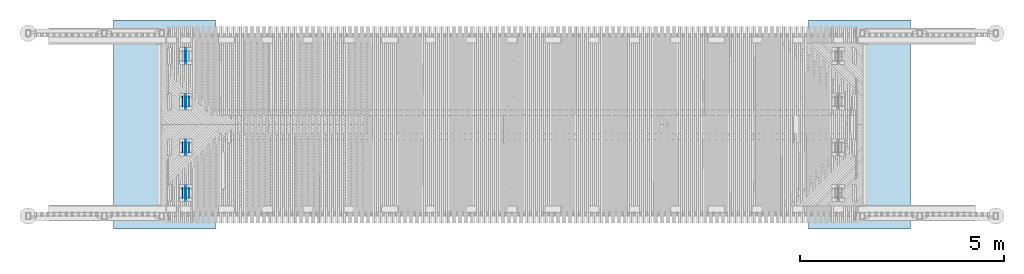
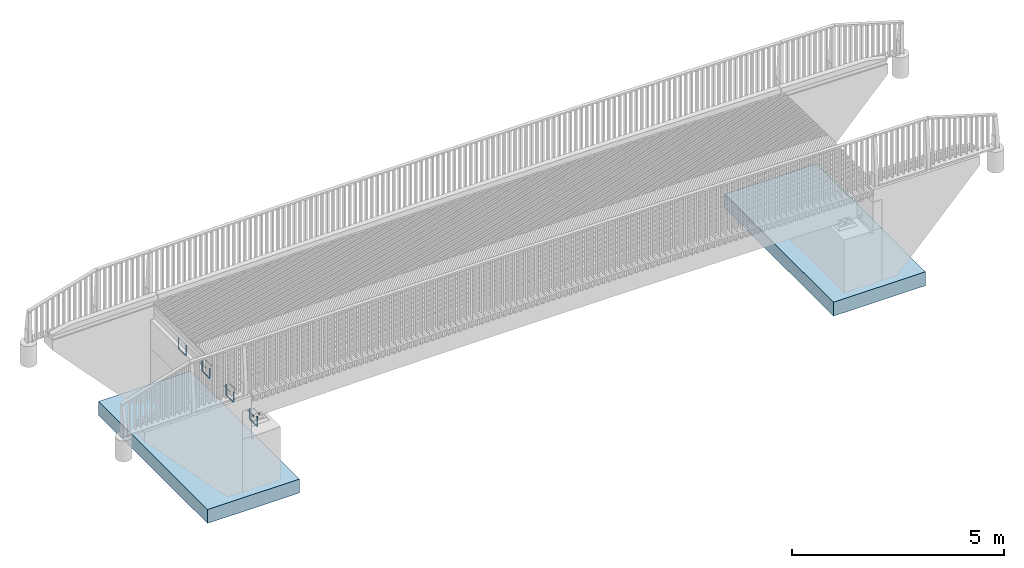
# One storey, part 1 of 47: 8 reinforcing bars, 3 mechanical fasteners, 2 slabs.
"""IFC2X3 building model written with IfcOpenShell, lengths in millimetres."""

from ifc_helpers import new_model, si_unit, frame, origin_with_axes, place, context, subcontext, project, spatial, faceted_brep, source, transform, mapped, material, type_object, element, save


model = new_model("IFC2X3")

# Units and contexts
model_context = context("Model", 3, precision=1e-05, world=origin_with_axes())
body_context = subcontext(model_context, "Body", "Model", "MODEL_VIEW")
ifc_project = project(units=[si_unit("LENGTHUNIT", "METRE", prefix="MILLI"), si_unit("AREAUNIT", "SQUARE_METRE"), si_unit("VOLUMEUNIT", "CUBIC_METRE"), si_unit("MASSUNIT", "GRAM", prefix="KILO"), si_unit("TIMEUNIT", "SECOND"), si_unit("PLANEANGLEUNIT", "RADIAN"), si_unit("SOLIDANGLEUNIT", "STERADIAN"), si_unit("THERMODYNAMICTEMPERATUREUNIT", "DEGREE_CELSIUS"), si_unit("LUMINOUSINTENSITYUNIT", "LUMEN")], contexts=[model_context])

# Site, building, storey
site_placement = place(None, origin_with_axes())
site = spatial("IfcSite", under=ifc_project, at=site_placement, Name="Undefined", CompositionType="ELEMENT")
building_placement = place(site_placement, origin_with_axes())
building = spatial("IfcBuilding", under=site, at=building_placement, Name="Undefined", CompositionType="ELEMENT")
storey_placement = place(building_placement, origin_with_axes())
storey = spatial("IfcBuildingStorey", under=building, at=storey_placement, Name="Undefined", CompositionType="ELEMENT", Elevation=0.0)

# Slabs
ifc_material_1 = material(Name="CONCRETE/Concrete_Undefined")
slab_type = type_object("IfcSlabType", Name="400*2500", PredefinedType="NOTDEFINED")
for number, where, z_axis, x_axis in (
    (1, (17765.0, 64930.0, 200.0), (-1.0, 0.0, 0.0), (0.0, -1.0, 0.0)),
    (2, (-1765.0, 64930.0, 200.0), (1.0, 0.0, 0.0), (0.0, -1.0, 0.0)),
):
    element("IfcSlab", number, at=place(storey_placement, frame(where, z_axis=z_axis, x_axis=x_axis)), inside=storey, type_object=slab_type, material=ifc_material_1, Name="PERUSLAATTA", ObjectType="400*2500", PredefinedType="FLOOR", context=body_context, shape_type="Brep", body=[
        faceted_brep([(0.0, -200.0, 0.0), (0.0, -200.0, 2500.0), (0.0, 200.0, 2500.0), (0.0, 200.0, 0.0), (5130.0, -200.0, 2500.0), (5130.0, 200.0, 2500.0), (5130.0, -200.0, 0.0), (5130.0, 200.0, 0.0)], [[[0, 1, 2, 3]], [[1, 4, 5, 2]], [[4, 6, 7, 5]], [[6, 0, 3, 7]], [[5, 7, 3, 2]], [[6, 4, 1, 0]]]),
    ])

# Reinforcing bars
ifc_material_2 = material(Name="A500HW")
shared_shape_1 = source(origin_with_axes(), body_context, "Body", "Brep", [
    faceted_brep([(9.95929214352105, -5.74999999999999, -1.31778448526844e-16), (9.95929214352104, 5.75000000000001, -1.31778448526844e-16), (-4.46864767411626e-15, 11.5, 5.31556664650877e-32), (-9.95929214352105, 5.75, 1.31778448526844e-16), (-9.95929214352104, -5.75, 1.31778448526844e-16), (0.0, -11.5, 0.0), (-9.95929214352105, -5.75, -268.5), (-3.5527136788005e-15, -11.5, -268.5), (-9.95929214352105, 5.75, -268.5), (-8.02136135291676e-15, 11.5, -268.5), (9.95929214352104, 5.75000000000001, -268.5), (9.95929214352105, -5.74999999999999, -268.5), (-4.40480021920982, -5.75, -289.229646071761), (4.22019978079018, -11.5, -284.25), (-4.40480021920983, 5.75, -289.229646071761), (4.22019978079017, 11.5, -284.25), (12.8451997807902, 5.75000000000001, -279.27035392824), (12.8451997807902, -5.74999999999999, -279.27035392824), (10.7703539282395, -5.75, -304.40480021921), (15.75, -11.5, -295.77980021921), (10.7703539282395, 5.75, -304.40480021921), (15.75, 11.5, -295.77980021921), (20.7296460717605, 5.75000000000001, -287.15480021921), (20.7296460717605, -5.74999999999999, -287.15480021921), (31.5, -5.75, -309.959292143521), (31.5, -11.5, -300.0), (31.5, 5.75, -309.959292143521), (31.5, 11.5, -300.0), (31.5, 5.75000000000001, -290.040707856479), (31.5, -5.74999999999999, -290.040707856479), (323.5, -5.75, -309.959292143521), (323.5, -11.5, -300.0), (323.5, 5.75, -309.959292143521), (323.5, 11.5, -300.0), (323.5, 5.75000000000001, -290.040707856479), (323.5, -5.74999999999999, -290.040707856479), (344.229646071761, -5.75, -304.40480021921), (339.25, -11.5, -295.77980021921), (344.229646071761, 5.75, -304.40480021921), (339.25, 11.5, -295.77980021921), (334.270353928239, 5.75000000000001, -287.15480021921), (334.270353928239, -5.74999999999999, -287.15480021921), (359.40480021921, -5.75, -289.229646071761), (350.77980021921, -11.5, -284.25), (359.40480021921, 5.75, -289.229646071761), (350.77980021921, 11.5, -284.25), (342.15480021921, 5.75000000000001, -279.27035392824), (342.15480021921, -5.74999999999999, -279.27035392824), (364.959292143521, -5.75, -268.5), (355.0, -11.5, -268.5), (364.959292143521, 5.75, -268.5), (355.0, 11.5, -268.5), (345.040707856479, 5.75000000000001, -268.5), (345.040707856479, -5.74999999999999, -268.5), (364.959292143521, -5.75, 0.0), (355.0, -11.5, 0.0), (364.959292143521, 5.75, 0.0), (355.0, 11.5, 0.0), (345.040707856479, 5.75000000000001, 0.0), (345.040707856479, -5.74999999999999, 0.0)], [[[0, 1, 2, 3, 4, 5]], [[5, 4, 6, 7]], [[4, 3, 8, 6]], [[3, 2, 9, 8]], [[2, 1, 10, 9]], [[1, 0, 11, 10]], [[0, 5, 7, 11]], [[7, 6, 12, 13]], [[6, 8, 14, 12]], [[8, 9, 15, 14]], [[9, 10, 16, 15]], [[10, 11, 17, 16]], [[11, 7, 13, 17]], [[13, 12, 18, 19]], [[12, 14, 20, 18]], [[14, 15, 21, 20]], [[15, 16, 22, 21]], [[16, 17, 23, 22]], [[17, 13, 19, 23]], [[19, 18, 24, 25]], [[18, 20, 26, 24]], [[20, 21, 27, 26]], [[21, 22, 28, 27]], [[22, 23, 29, 28]], [[23, 19, 25, 29]], [[25, 24, 30, 31]], [[24, 26, 32, 30]], [[26, 27, 33, 32]], [[27, 28, 34, 33]], [[28, 29, 35, 34]], [[29, 25, 31, 35]], [[31, 30, 36, 37]], [[30, 32, 38, 36]], [[32, 33, 39, 38]], [[33, 34, 40, 39]], [[34, 35, 41, 40]], [[35, 31, 37, 41]], [[37, 36, 42, 43]], [[36, 38, 44, 42]], [[38, 39, 45, 44]], [[39, 40, 46, 45]], [[40, 41, 47, 46]], [[41, 37, 43, 47]], [[43, 42, 48, 49]], [[42, 44, 50, 48]], [[44, 45, 51, 50]], [[45, 46, 52, 51]], [[46, 47, 53, 52]], [[47, 43, 49, 53]], [[49, 48, 54, 55]], [[48, 50, 56, 54]], [[50, 51, 57, 56]], [[51, 52, 58, 57]], [[52, 53, 59, 58]], [[53, 49, 55, 59]], [[55, 54, 56, 57, 58, 59]]]),
])
for number, where, z_axis, x_axis, name in (
    (3, (0.0, 63102.5000000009, 1637.32999999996), (0.0, 0.0, 1.0), (0.0, -1.0, 0.0), "REBAR"),
    (4, (0.0, 64222.5000000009, 1615.32999999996), (0.0, 0.0, 1.0), (0.0, -1.0, 0.0), "REBAR"),
    (5, (0.0, 61627.5, 1637.32999999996), (0.0, 0.0, 1.0), (0.0, 1.0, 0.0), "REBAR"),
    (6, (0.0, 60507.5, 1615.32999999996), (0.0, 0.0, 1.0), (0.0, 1.0, 0.0), "REBAR"),
    (7, (0.0, 60507.5, 1615.32999999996), (0.0, 0.0, 1.0), (0.0, 1.0, 0.0), "REBAR"),
    (8, (0.0, 61627.5, 1637.32999999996), (0.0, 0.0, 1.0), (0.0, 1.0, 0.0), "REBAR"),
    (9, (0.0, 64222.5000000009, 1615.32999999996), (0.0, 0.0, 1.0), (0.0, -1.0, 0.0), "REBAR"),
    (10, (0.0, 63102.5000000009, 1637.32999999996), (0.0, 0.0, 1.0), (0.0, -1.0, 0.0), "REBAR"),
):
    element("IfcReinforcingBar", number, at=place(storey_placement, frame(where, z_axis=z_axis, x_axis=x_axis)), inside=storey, material=ifc_material_2, Name=name, BarRole="NOTDEFINED", CrossSectionArea=0.0, NominalDiameter=23.0, context=body_context, shape_type="MappedRepresentation", body=[
        mapped(shared_shape_1, transform((0.0, 0.0, 420.0))),
    ])

# Mechanical fasteners
ifc_material_3 = material(Name="Undefined")
mechanical_fastener_type = type_object("IfcMechanicalFastenerType", Name="Bolt assembly")
shared_shape_2 = source(origin_with_axes(), body_context, "Body", "Brep", [
    faceted_brep([(17.3205080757, -238.7, 0.0), (8.66025403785, -238.7, 15.0000000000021), (-8.66025403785, -238.7, 15.0000000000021), (-17.3205080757, -238.7, 0.0), (-8.66025403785, -238.7, -15.0000000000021), (8.66025403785, -238.7, -15.0000000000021), (8.66025403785, -225.5, -15.0000000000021), (-8.66025403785, -225.5, -15.0000000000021), (-17.3205080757, -225.5, 0.0), (-8.66025403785, -225.5, 15.0000000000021), (8.66025403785, -225.5, 15.0000000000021), (17.3205080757, -225.5, 0.0), (10.0, -225.5, 0.0), (8.66025403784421, -225.5, 5.0000000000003), (4.9999999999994, -225.5, 8.66025403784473), (-1.03633598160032e-12, -225.5, 10.0), (-5.00000000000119, -225.5, 8.6602540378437), (-8.66025403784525, -225.5, 4.99999999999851), (-10.0, -225.5, -2.07267196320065e-12), (-8.66025403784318, -225.5, -5.00000000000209), (-4.99999999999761, -225.5, -8.66025403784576), (3.09790571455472e-12, -225.5, -10.0), (5.00000000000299, -225.5, -8.66025403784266), (8.66025403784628, -225.5, -4.99999999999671), (8.66025403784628, 44.5, -4.99999999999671), (5.00000000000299, 44.5, -8.66025403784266), (3.09790571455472e-12, 44.5, -10.0), (-4.99999999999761, 44.5, -8.66025403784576), (-8.66025403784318, 44.5, -5.00000000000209), (-10.0, 44.5, -2.07267196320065e-12), (-8.66025403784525, 44.5, 4.99999999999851), (-5.00000000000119, 44.5, 8.6602540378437), (-1.03633598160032e-12, 44.5, 10.0), (4.9999999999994, 44.5, 8.66025403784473), (8.66025403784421, 44.5, 5.0000000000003), (10.0, 44.5, 0.0), (18.5, -225.5, 0.0), (16.0214699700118, -225.5, 9.25000000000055), (9.2499999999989, -225.5, 16.0214699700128), (-1.9172215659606e-12, -225.5, 18.5), (-9.25000000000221, -225.5, 16.0214699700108), (-16.0214699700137, -225.5, 9.24999999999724), (-18.5, -225.5, -3.83444313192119e-12), (-16.0214699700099, -225.5, -9.25000000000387), (-9.24999999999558, -225.5, -16.0214699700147), (5.73112557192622e-12, -225.5, -18.5), (9.25000000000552, -225.5, -16.0214699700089), (16.0214699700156, -225.5, -9.24999999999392), (16.0214699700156, -222.5, -9.24999999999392), (9.25000000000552, -222.5, -16.0214699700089), (5.73112557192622e-12, -222.5, -18.5), (-9.24999999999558, -222.5, -16.0214699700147), (-16.0214699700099, -222.5, -9.25000000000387), (-18.5, -222.5, -3.83444313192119e-12), (-16.0214699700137, -222.5, 9.24999999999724), (-9.25000000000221, -222.5, 16.0214699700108), (-1.9172215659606e-12, -222.5, 18.5), (9.2499999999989, -222.5, 16.0214699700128), (16.0214699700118, -222.5, 9.25000000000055), (18.5, -222.5, 0.0), (18.5, 12.5, 0.0), (16.0214699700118, 12.5, 9.25000000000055), (9.2499999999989, 12.5, 16.0214699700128), (-1.9172215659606e-12, 12.5, 18.5), (-9.25000000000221, 12.5, 16.0214699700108), (-16.0214699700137, 12.5, 9.24999999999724), (-18.5, 12.5, -3.83444313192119e-12), (-16.0214699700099, 12.5, -9.25000000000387), (-9.24999999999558, 12.5, -16.0214699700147), (5.73112557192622e-12, 12.5, -18.5), (9.25000000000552, 12.5, -16.0214699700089), (16.0214699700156, 12.5, -9.24999999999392), (16.0214699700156, 15.5, -9.24999999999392), (9.25000000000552, 15.5, -16.0214699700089), (5.73112557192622e-12, 15.5, -18.5), (-9.24999999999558, 15.5, -16.0214699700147), (-16.0214699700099, 15.5, -9.25000000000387), (-18.5, 15.5, -3.83444313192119e-12), (-16.0214699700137, 15.5, 9.24999999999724), (-9.25000000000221, 15.5, 16.0214699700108), (-1.9172215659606e-12, 15.5, 18.5), (9.2499999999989, 15.5, 16.0214699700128), (16.0214699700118, 15.5, 9.25000000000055), (18.5, 15.5, 0.0), (17.3205080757, 15.5, 0.0), (8.66025403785, 15.5, 15.0000000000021), (-8.66025403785, 15.5, 15.0000000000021), (-17.3205080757, 15.5, 0.0), (-8.66025403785, 15.5, -15.0000000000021), (8.66025403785, 15.5, -15.0000000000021), (8.66025403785, 31.5, -15.0000000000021), (-8.66025403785, 31.5, -15.0000000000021), (-17.3205080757, 31.5, 0.0), (-8.66025403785, 31.5, 15.0000000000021), (8.66025403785, 31.5, 15.0000000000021), (17.3205080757, 31.5, 0.0)], [[[0, 1, 2, 3, 4, 5]], [[6, 7, 8, 9, 10, 11]], [[0, 11, 10, 1]], [[1, 10, 9, 2]], [[2, 9, 8, 3]], [[3, 8, 7, 4]], [[4, 7, 6, 5]], [[5, 6, 11, 0]], [[12, 13, 14, 15, 16, 17, 18, 19, 20, 21, 22, 23]], [[24, 25, 26, 27, 28, 29, 30, 31, 32, 33, 34, 35]], [[12, 35, 34, 13]], [[13, 34, 33, 14]], [[14, 33, 32, 15]], [[15, 32, 31, 16]], [[16, 31, 30, 17]], [[17, 30, 29, 18]], [[18, 29, 28, 19]], [[19, 28, 27, 20]], [[20, 27, 26, 21]], [[21, 26, 25, 22]], [[22, 25, 24, 23]], [[23, 24, 35, 12]], [[36, 37, 38, 39, 40, 41, 42, 43, 44, 45, 46, 47]], [[48, 49, 50, 51, 52, 53, 54, 55, 56, 57, 58, 59]], [[36, 59, 58, 37]], [[37, 58, 57, 38]], [[38, 57, 56, 39]], [[39, 56, 55, 40]], [[40, 55, 54, 41]], [[41, 54, 53, 42]], [[42, 53, 52, 43]], [[43, 52, 51, 44]], [[44, 51, 50, 45]], [[45, 50, 49, 46]], [[46, 49, 48, 47]], [[47, 48, 59, 36]], [[60, 61, 62, 63, 64, 65, 66, 67, 68, 69, 70, 71]], [[72, 73, 74, 75, 76, 77, 78, 79, 80, 81, 82, 83]], [[60, 83, 82, 61]], [[61, 82, 81, 62]], [[62, 81, 80, 63]], [[63, 80, 79, 64]], [[64, 79, 78, 65]], [[65, 78, 77, 66]], [[66, 77, 76, 67]], [[67, 76, 75, 68]], [[68, 75, 74, 69]], [[69, 74, 73, 70]], [[70, 73, 72, 71]], [[71, 72, 83, 60]], [[84, 85, 86, 87, 88, 89]], [[90, 91, 92, 93, 94, 95]], [[84, 95, 94, 85]], [[85, 94, 93, 86]], [[86, 93, 92, 87]], [[87, 92, 91, 88]], [[88, 91, 90, 89]], [[89, 90, 95, 84]]]),
    faceted_brep([(11.0, -222.4, 0.0), (9.52627944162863, -222.4, 5.50000000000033), (5.49999999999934, -222.4, 9.5262794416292), (-1.13996957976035e-12, -222.4, 11.0), (-5.50000000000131, -222.4, 9.52627944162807), (-9.52627944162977, -222.4, 5.49999999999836), (-11.0, -222.4, -2.27993915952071e-12), (-9.5262794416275, -222.4, -5.5000000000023), (-5.49999999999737, -222.4, -9.52627944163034), (3.40769628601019e-12, -222.4, -11.0), (5.50000000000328, -222.4, -9.52627944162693), (9.52627944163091, -222.4, -5.49999999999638), (9.52627944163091, -212.4, -5.49999999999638), (5.50000000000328, -212.4, -9.52627944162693), (3.40769628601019e-12, -212.4, -11.0), (-5.49999999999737, -212.4, -9.52627944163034), (-9.5262794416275, -212.4, -5.5000000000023), (-11.0, -212.4, -2.27993915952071e-12), (-9.52627944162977, -212.4, 5.49999999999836), (-5.50000000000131, -212.4, 9.52627944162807), (-1.13996957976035e-12, -212.4, 11.0), (5.49999999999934, -212.4, 9.5262794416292), (9.52627944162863, -212.4, 5.50000000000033), (11.0, -212.4, 0.0), (11.0, 2.4, 0.0), (9.52627944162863, 2.4, 5.50000000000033), (5.49999999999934, 2.4, 9.5262794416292), (-1.13996957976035e-12, 2.4, 11.0), (-5.50000000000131, 2.4, 9.52627944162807), (-9.52627944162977, 2.4, 5.49999999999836), (-11.0, 2.4, -2.27993915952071e-12), (-9.5262794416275, 2.4, -5.5000000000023), (-5.49999999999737, 2.4, -9.52627944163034), (3.40769628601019e-12, 2.4, -11.0), (5.50000000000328, 2.4, -9.52627944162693), (9.52627944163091, 2.4, -5.49999999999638), (9.52627944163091, 12.5, -5.49999999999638), (5.50000000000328, 12.5, -9.52627944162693), (3.40769628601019e-12, 12.5, -11.0), (-5.49999999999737, 12.5, -9.52627944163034), (-9.5262794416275, 12.5, -5.5000000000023), (-11.0, 12.5, -2.27993915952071e-12), (-9.52627944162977, 12.5, 5.49999999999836), (-5.50000000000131, 12.5, 9.52627944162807), (-1.13996957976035e-12, 12.5, 11.0), (5.49999999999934, 12.5, 9.5262794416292), (9.52627944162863, 12.5, 5.50000000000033), (11.0, 12.5, 0.0)], [[[0, 1, 2, 3, 4, 5, 6, 7, 8, 9, 10, 11]], [[12, 13, 14, 15, 16, 17, 18, 19, 20, 21, 22, 23]], [[0, 23, 22, 1]], [[1, 22, 21, 2]], [[2, 21, 20, 3]], [[3, 20, 19, 4]], [[4, 19, 18, 5]], [[5, 18, 17, 6]], [[6, 17, 16, 7]], [[7, 16, 15, 8]], [[8, 15, 14, 9]], [[9, 14, 13, 10]], [[10, 13, 12, 11]], [[11, 12, 23, 0]], [[24, 25, 26, 27, 28, 29, 30, 31, 32, 33, 34, 35]], [[36, 37, 38, 39, 40, 41, 42, 43, 44, 45, 46, 47]], [[24, 47, 46, 25]], [[25, 46, 45, 26]], [[26, 45, 44, 27]], [[27, 44, 43, 28]], [[28, 43, 42, 29]], [[29, 42, 41, 30]], [[30, 41, 40, 31]], [[31, 40, 39, 32]], [[32, 39, 38, 33]], [[33, 38, 37, 34]], [[34, 37, 36, 35]], [[35, 36, 47, 24]]]),
])
mechanical_fastener_placement = place(storey_placement, frame((-80.0, 63030.0000000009, 2067.33), z_axis=(0.0, 0.0, 1.0), x_axis=(1.0, 0.0, 0.0)))
element("IfcMechanicalFastener", 11, at=mechanical_fastener_placement, inside=storey, type_object=mechanical_fastener_type, material=ifc_material_3, Name="Bolt assembly", NominalDiameter=20.0, NominalLength=270.0, context=body_context, shape_type="MappedRepresentation", body=[
    mapped(shared_shape_2, transform((0.0, 0.0, 0.0))),
    mapped(shared_shape_2, transform((160.0, 0.0, 0.0))),
])
shared_shape_3 = source(origin_with_axes(), body_context, "Body", "Brep", [
    faceted_brep([(17.3205080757, -28.7, 0.0), (8.66025403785, -28.7, 15.0000000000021), (-8.66025403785, -28.7, 15.0000000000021), (-17.3205080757, -28.7, 0.0), (-8.66025403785, -28.7, -15.0000000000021), (8.66025403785, -28.7, -15.0000000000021), (8.66025403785, -15.5, -15.0000000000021), (-8.66025403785, -15.5, -15.0000000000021), (-17.3205080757, -15.5, 0.0), (-8.66025403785, -15.5, 15.0000000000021), (8.66025403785, -15.5, 15.0000000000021), (17.3205080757, -15.5, 0.0), (10.0, -15.5, 0.0), (8.66025403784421, -15.5, 5.0000000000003), (4.9999999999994, -15.5, 8.66025403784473), (-1.03633598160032e-12, -15.5, 10.0), (-5.00000000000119, -15.5, 8.6602540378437), (-8.66025403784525, -15.5, 4.99999999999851), (-10.0, -15.5, -2.07267196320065e-12), (-8.66025403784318, -15.5, -5.00000000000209), (-4.99999999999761, -15.5, -8.66025403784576), (3.09790571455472e-12, -15.5, -10.0), (5.00000000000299, -15.5, -8.66025403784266), (8.66025403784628, -15.5, -4.99999999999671), (8.66025403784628, 254.5, -4.99999999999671), (5.00000000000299, 254.5, -8.66025403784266), (3.09790571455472e-12, 254.5, -10.0), (-4.99999999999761, 254.5, -8.66025403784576), (-8.66025403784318, 254.5, -5.00000000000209), (-10.0, 254.5, -2.07267196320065e-12), (-8.66025403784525, 254.5, 4.99999999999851), (-5.00000000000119, 254.5, 8.6602540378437), (-1.03633598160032e-12, 254.5, 10.0), (4.9999999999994, 254.5, 8.66025403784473), (8.66025403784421, 254.5, 5.0000000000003), (10.0, 254.5, 0.0), (18.5, -15.5, 0.0), (16.0214699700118, -15.5, 9.25000000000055), (9.2499999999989, -15.5, 16.0214699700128), (-1.9172215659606e-12, -15.5, 18.5), (-9.25000000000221, -15.5, 16.0214699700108), (-16.0214699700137, -15.5, 9.24999999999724), (-18.5, -15.5, -3.83444313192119e-12), (-16.0214699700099, -15.5, -9.25000000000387), (-9.24999999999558, -15.5, -16.0214699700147), (5.73112557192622e-12, -15.5, -18.5), (9.25000000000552, -15.5, -16.0214699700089), (16.0214699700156, -15.5, -9.24999999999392), (16.0214699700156, -12.5, -9.24999999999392), (9.25000000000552, -12.5, -16.0214699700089), (5.73112557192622e-12, -12.5, -18.5), (-9.24999999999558, -12.5, -16.0214699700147), (-16.0214699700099, -12.5, -9.25000000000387), (-18.5, -12.5, -3.83444313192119e-12), (-16.0214699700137, -12.5, 9.24999999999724), (-9.25000000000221, -12.5, 16.0214699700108), (-1.9172215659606e-12, -12.5, 18.5), (9.2499999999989, -12.5, 16.0214699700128), (16.0214699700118, -12.5, 9.25000000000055), (18.5, -12.5, 0.0), (18.5, 222.5, 0.0), (16.0214699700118, 222.5, 9.25000000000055), (9.2499999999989, 222.5, 16.0214699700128), (-1.9172215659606e-12, 222.5, 18.5), (-9.25000000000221, 222.5, 16.0214699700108), (-16.0214699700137, 222.5, 9.24999999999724), (-18.5, 222.5, -3.83444313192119e-12), (-16.0214699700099, 222.5, -9.25000000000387), (-9.24999999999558, 222.5, -16.0214699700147), (5.73112557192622e-12, 222.5, -18.5), (9.25000000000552, 222.5, -16.0214699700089), (16.0214699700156, 222.5, -9.24999999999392), (16.0214699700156, 225.5, -9.24999999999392), (9.25000000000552, 225.5, -16.0214699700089), (5.73112557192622e-12, 225.5, -18.5), (-9.24999999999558, 225.5, -16.0214699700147), (-16.0214699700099, 225.5, -9.25000000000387), (-18.5, 225.5, -3.83444313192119e-12), (-16.0214699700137, 225.5, 9.24999999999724), (-9.25000000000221, 225.5, 16.0214699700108), (-1.9172215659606e-12, 225.5, 18.5), (9.2499999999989, 225.5, 16.0214699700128), (16.0214699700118, 225.5, 9.25000000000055), (18.5, 225.5, 0.0), (17.3205080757, 225.5, 0.0), (8.66025403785, 225.5, 15.0000000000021), (-8.66025403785, 225.5, 15.0000000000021), (-17.3205080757, 225.5, 0.0), (-8.66025403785, 225.5, -15.0000000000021), (8.66025403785, 225.5, -15.0000000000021), (8.66025403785, 241.5, -15.0000000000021), (-8.66025403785, 241.5, -15.0000000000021), (-17.3205080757, 241.5, 0.0), (-8.66025403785, 241.5, 15.0000000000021), (8.66025403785, 241.5, 15.0000000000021), (17.3205080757, 241.5, 0.0)], [[[0, 1, 2, 3, 4, 5]], [[6, 7, 8, 9, 10, 11]], [[0, 11, 10, 1]], [[1, 10, 9, 2]], [[2, 9, 8, 3]], [[3, 8, 7, 4]], [[4, 7, 6, 5]], [[5, 6, 11, 0]], [[12, 13, 14, 15, 16, 17, 18, 19, 20, 21, 22, 23]], [[24, 25, 26, 27, 28, 29, 30, 31, 32, 33, 34, 35]], [[12, 35, 34, 13]], [[13, 34, 33, 14]], [[14, 33, 32, 15]], [[15, 32, 31, 16]], [[16, 31, 30, 17]], [[17, 30, 29, 18]], [[18, 29, 28, 19]], [[19, 28, 27, 20]], [[20, 27, 26, 21]], [[21, 26, 25, 22]], [[22, 25, 24, 23]], [[23, 24, 35, 12]], [[36, 37, 38, 39, 40, 41, 42, 43, 44, 45, 46, 47]], [[48, 49, 50, 51, 52, 53, 54, 55, 56, 57, 58, 59]], [[36, 59, 58, 37]], [[37, 58, 57, 38]], [[38, 57, 56, 39]], [[39, 56, 55, 40]], [[40, 55, 54, 41]], [[41, 54, 53, 42]], [[42, 53, 52, 43]], [[43, 52, 51, 44]], [[44, 51, 50, 45]], [[45, 50, 49, 46]], [[46, 49, 48, 47]], [[47, 48, 59, 36]], [[60, 61, 62, 63, 64, 65, 66, 67, 68, 69, 70, 71]], [[72, 73, 74, 75, 76, 77, 78, 79, 80, 81, 82, 83]], [[60, 83, 82, 61]], [[61, 82, 81, 62]], [[62, 81, 80, 63]], [[63, 80, 79, 64]], [[64, 79, 78, 65]], [[65, 78, 77, 66]], [[66, 77, 76, 67]], [[67, 76, 75, 68]], [[68, 75, 74, 69]], [[69, 74, 73, 70]], [[70, 73, 72, 71]], [[71, 72, 83, 60]], [[84, 85, 86, 87, 88, 89]], [[90, 91, 92, 93, 94, 95]], [[84, 95, 94, 85]], [[85, 94, 93, 86]], [[86, 93, 92, 87]], [[87, 92, 91, 88]], [[88, 91, 90, 89]], [[89, 90, 95, 84]]]),
    faceted_brep([(11.0, -12.4, 0.0), (9.52627944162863, -12.4, 5.50000000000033), (5.49999999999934, -12.4, 9.5262794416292), (-1.13996957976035e-12, -12.4, 11.0), (-5.50000000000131, -12.4, 9.52627944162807), (-9.52627944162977, -12.4, 5.49999999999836), (-11.0, -12.4, -2.27993915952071e-12), (-9.5262794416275, -12.4, -5.5000000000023), (-5.49999999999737, -12.4, -9.52627944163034), (3.40769628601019e-12, -12.4, -11.0), (5.50000000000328, -12.4, -9.52627944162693), (9.52627944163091, -12.4, -5.49999999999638), (9.52627944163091, -2.4, -5.49999999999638), (5.50000000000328, -2.4, -9.52627944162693), (3.40769628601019e-12, -2.4, -11.0), (-5.49999999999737, -2.4, -9.52627944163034), (-9.5262794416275, -2.4, -5.5000000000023), (-11.0, -2.4, -2.27993915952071e-12), (-9.52627944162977, -2.4, 5.49999999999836), (-5.50000000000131, -2.4, 9.52627944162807), (-1.13996957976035e-12, -2.4, 11.0), (5.49999999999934, -2.4, 9.5262794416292), (9.52627944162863, -2.4, 5.50000000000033), (11.0, -2.4, 0.0), (11.0, 212.4, 0.0), (9.52627944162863, 212.4, 5.50000000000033), (5.49999999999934, 212.4, 9.5262794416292), (-1.13996957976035e-12, 212.4, 11.0), (-5.50000000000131, 212.4, 9.52627944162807), (-9.52627944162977, 212.4, 5.49999999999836), (-11.0, 212.4, -2.27993915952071e-12), (-9.5262794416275, 212.4, -5.5000000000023), (-5.49999999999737, 212.4, -9.52627944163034), (3.40769628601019e-12, 212.4, -11.0), (5.50000000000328, 212.4, -9.52627944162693), (9.52627944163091, 212.4, -5.49999999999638), (9.52627944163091, 222.5, -5.49999999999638), (5.50000000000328, 222.5, -9.52627944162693), (3.40769628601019e-12, 222.5, -11.0), (-5.49999999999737, 222.5, -9.52627944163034), (-9.5262794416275, 222.5, -5.5000000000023), (-11.0, 222.5, -2.27993915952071e-12), (-9.52627944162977, 222.5, 5.49999999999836), (-5.50000000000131, 222.5, 9.52627944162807), (-1.13996957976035e-12, 222.5, 11.0), (5.49999999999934, 222.5, 9.5262794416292), (9.52627944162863, 222.5, 5.50000000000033), (11.0, 222.5, 0.0)], [[[0, 1, 2, 3, 4, 5, 6, 7, 8, 9, 10, 11]], [[12, 13, 14, 15, 16, 17, 18, 19, 20, 21, 22, 23]], [[0, 23, 22, 1]], [[1, 22, 21, 2]], [[2, 21, 20, 3]], [[3, 20, 19, 4]], [[4, 19, 18, 5]], [[5, 18, 17, 6]], [[6, 17, 16, 7]], [[7, 16, 15, 8]], [[8, 15, 14, 9]], [[9, 14, 13, 10]], [[10, 13, 12, 11]], [[11, 12, 23, 0]], [[24, 25, 26, 27, 28, 29, 30, 31, 32, 33, 34, 35]], [[36, 37, 38, 39, 40, 41, 42, 43, 44, 45, 46, 47]], [[24, 47, 46, 25]], [[25, 46, 45, 26]], [[26, 45, 44, 27]], [[27, 44, 43, 28]], [[28, 43, 42, 29]], [[29, 42, 41, 30]], [[30, 41, 40, 31]], [[31, 40, 39, 32]], [[32, 39, 38, 33]], [[33, 38, 37, 34]], [[34, 37, 36, 35]], [[35, 36, 47, 24]]]),
])
for number, where, z_axis, x_axis, name in (
    (12, (-80.0, 61700.0, 2067.33), (0.0, 0.0, 1.0), (1.0, 0.0, 0.0), "Bolt assembly"),
    (13, (-80.0, 60580.0, 2045.33), (0.0, 0.0, 1.0), (1.0, 0.0, 0.0), "Bolt assembly"),
):
    element("IfcMechanicalFastener", number, at=place(storey_placement, frame(where, z_axis=z_axis, x_axis=x_axis)), inside=storey, type_object=mechanical_fastener_type, material=ifc_material_3, Name=name, NominalDiameter=20.0, NominalLength=270.0, context=body_context, shape_type="MappedRepresentation", body=[
        mapped(shared_shape_3, transform((0.0, 0.0, 0.0))),
        mapped(shared_shape_3, transform((160.0, 0.0, 0.0))),
    ])

save(model, "model.ifc")
